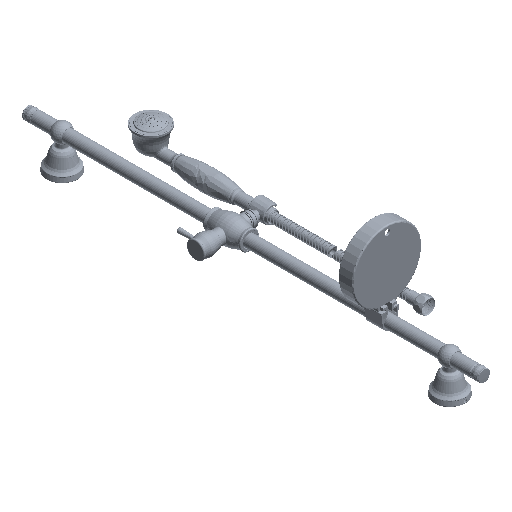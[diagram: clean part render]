
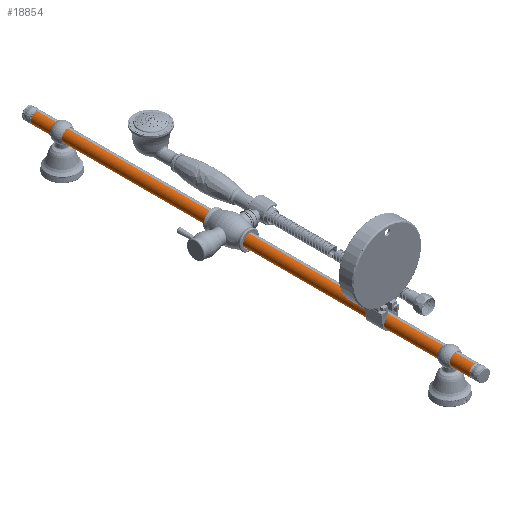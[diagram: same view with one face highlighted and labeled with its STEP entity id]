
A CAD part, isometric view. The second image highlights one B-rep face of the part: STEP entity #18854.
In plain terms, the highlighted cylindrical face has radius 9.5 mm (diameter 19 mm), a partial arc.
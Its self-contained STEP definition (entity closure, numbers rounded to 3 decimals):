
#18608=CARTESIAN_POINT('',(0.,662.5,-9.5));
#18609=CARTESIAN_POINT('',(-0.342,662.5,-9.5));
#18610=CARTESIAN_POINT('',(-0.973,662.373,
-9.465));
#18611=CARTESIAN_POINT('',(-1.825,661.804,
-9.333));
#18612=CARTESIAN_POINT('',(-2.366,660.988,
-9.203));
#18613=CARTESIAN_POINT('',(-2.567,659.99,
-9.146));
#18614=CARTESIAN_POINT('',(-2.366,659.014,
-9.203));
#18615=CARTESIAN_POINT('',(-1.817,658.187,
-9.334));
#18616=CARTESIAN_POINT('',(-0.97,657.628,
-9.465));
#18617=CARTESIAN_POINT('',(-0.341,657.5,-9.5));
#18618=CARTESIAN_POINT('',(0.,657.5,-9.5));
#18620=CARTESIAN_POINT('',(0.,0.,0.));
#18621=DIRECTION('',(0.,1.,0.));
#18622=DIRECTION('',(0.,0.,-1.));
#18623=AXIS2_PLACEMENT_3D('',#18620,#18621,#18622);
#18625=CARTESIAN_POINT('',(0.,42.5,-9.5));
#18626=CARTESIAN_POINT('',(-0.342,42.5,-9.5));
#18627=CARTESIAN_POINT('',(-0.973,42.373,
-9.465));
#18628=CARTESIAN_POINT('',(-1.825,41.804,
-9.333));
#18629=CARTESIAN_POINT('',(-2.366,40.988,
-9.203));
#18630=CARTESIAN_POINT('',(-2.567,39.99,
-9.146));
#18631=CARTESIAN_POINT('',(-2.366,39.014,
-9.203));
#18632=CARTESIAN_POINT('',(-1.817,38.187,
-9.334));
#18633=CARTESIAN_POINT('',(-0.97,37.628,
-9.465));
#18634=CARTESIAN_POINT('',(-0.341,37.5,-9.5));
#18635=CARTESIAN_POINT('',(0.,37.5,-9.5));
#18649=DIRECTION('',(0.,1.,0.));
#18650=VECTOR('',#18649,615.);
#18651=CARTESIAN_POINT('',(0.,42.5,-9.5));
#18652=LINE('',#18651,#18650);
#18665=DIRECTION('',(0.,1.,0.));
#18666=VECTOR('',#18665,37.5);
#18667=CARTESIAN_POINT('',(0.,0.,-9.5));
#18668=LINE('',#18667,#18666);
#18674=DIRECTION('',(0.,1.,0.));
#18675=VECTOR('',#18674,700.);
#18676=CARTESIAN_POINT('',(0.,0.,9.5));
#18677=LINE('',#18676,#18675);
#18678=DIRECTION('',(0.,1.,0.));
#18679=VECTOR('',#18678,37.5);
#18680=CARTESIAN_POINT('',(0.,662.5,-9.5));
#18681=LINE('',#18680,#18679);
#18735=CARTESIAN_POINT('',(0.,700.,0.));
#18736=DIRECTION('',(0.,1.,0.));
#18737=DIRECTION('',(0.,0.,-1.));
#18738=AXIS2_PLACEMENT_3D('',#18735,#18736,#18737);
#18753=CARTESIAN_POINT('',(0.,0.,9.5));
#18754=CARTESIAN_POINT('',(0.,700.,9.5));
#18755=VERTEX_POINT('',#18753);
#18756=VERTEX_POINT('',#18754);
#18763=CARTESIAN_POINT('',(0.,0.,-9.5));
#18764=VERTEX_POINT('',#18763);
#18765=CARTESIAN_POINT('',(0.,700.,-9.5));
#18766=VERTEX_POINT('',#18765);
#18769=VERTEX_POINT('',#18625);
#18770=VERTEX_POINT('',#18635);
#18773=VERTEX_POINT('',#18608);
#18774=VERTEX_POINT('',#18618);
#18833=CARTESIAN_POINT('',(0.,-35.,0.));
#18834=DIRECTION('',(0.,1.,0.));
#18835=DIRECTION('',(0.,0.,-1.));
#18836=AXIS2_PLACEMENT_3D('',#18833,#18834,#18835);
#18837=CYLINDRICAL_SURFACE('',#18836,9.5);
#18838=ORIENTED_EDGE('',*,*,#18823,.F.);
#18840=ORIENTED_EDGE('',*,*,#18839,.T.);
#18842=ORIENTED_EDGE('',*,*,#18841,.T.);
#18844=ORIENTED_EDGE('',*,*,#18843,.F.);
#18845=ORIENTED_EDGE('',*,*,#18784,.F.);
#18847=ORIENTED_EDGE('',*,*,#18846,.T.);
#18849=ORIENTED_EDGE('',*,*,#18848,.F.);
#18851=ORIENTED_EDGE('',*,*,#18850,.T.);
#18852=EDGE_LOOP('',(#18838,#18840,#18842,#18844,#18845,#18847,#18849,#18851));
#18853=FACE_OUTER_BOUND('',#18852,.F.);
#18854=ADVANCED_FACE('',(#18853),#18837,.T.);
#18619=B_SPLINE_CURVE_WITH_KNOTS('',3,(#18608,#18609,#18610,#18611,#18612,
#18613,#18614,#18615,#18616,#18617,#18618),.UNSPECIFIED.,.F.,.F.,(4,1,1,1,1,1,1,
1,4),(0.,0.125,0.25,0.375,0.5,0.625,0.75,0.875,1.),
.UNSPECIFIED.);
#18624=CIRCLE('',#18623,9.5);
#18636=B_SPLINE_CURVE_WITH_KNOTS('',3,(#18625,#18626,#18627,#18628,#18629,
#18630,#18631,#18632,#18633,#18634,#18635),.UNSPECIFIED.,.F.,.F.,(4,1,1,1,1,1,1,
1,4),(0.,0.125,0.25,0.375,0.5,0.625,0.75,0.875,1.),
.UNSPECIFIED.);
#18739=CIRCLE('',#18738,9.5);
#18784=EDGE_CURVE('',#18764,#18755,#18624,.T.);
#18823=EDGE_CURVE('',#18773,#18774,#18619,.T.);
#18839=EDGE_CURVE('',#18773,#18766,#18681,.T.);
#18841=EDGE_CURVE('',#18766,#18756,#18739,.T.);
#18843=EDGE_CURVE('',#18755,#18756,#18677,.T.);
#18846=EDGE_CURVE('',#18764,#18770,#18668,.T.);
#18848=EDGE_CURVE('',#18769,#18770,#18636,.T.);
#18850=EDGE_CURVE('',#18769,#18774,#18652,.T.);
